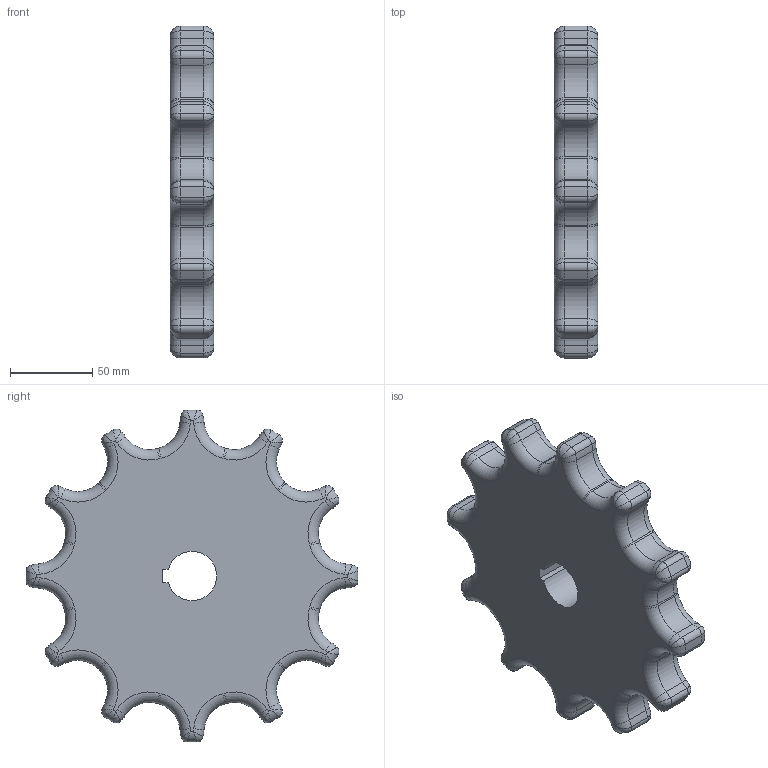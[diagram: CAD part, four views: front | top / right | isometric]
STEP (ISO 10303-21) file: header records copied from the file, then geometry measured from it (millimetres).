
FILE_DESCRIPTION((''),'2;1');
FILE_NAME('S3000_SPROCKET_77X1-1_4_RND','2008-12-12T',('jmumphre'),(''),'PRO/ENGINEER BY PARAMETRIC TECHNOLOGY CORPORATION, 2008150','PRO/ENGINEER BY PARAMETRIC TECHNOLOGY CORPORATION, 2008150','');
FILE_SCHEMA(('CONFIG_CONTROL_DESIGN'));
Length unit declared in the file: inch
Products named in the file (1): S3000_SPROCKET_77X1-1_4_RND
Bounding box: 26.8 x 202.28 x 202.28 mm (x, y, z)
Volume: 630881.1 mm3; surface area: 68726.5 mm2
Topology: 1 solids, 1 shells, 294 faces, 636 edges, 344 vertices
Faces by surface type: torus 120, cylinder 109, bspline 48, plane 17
Entity records: 10942 total; most frequent: CARTESIAN_POINT 4742, DIRECTION 1370, ORIENTED_EDGE 1272, EDGE_CURVE 636, AXIS2_PLACEMENT_3D 608, CIRCLE 362, VERTEX_POINT 344, EDGE_LOOP 296
